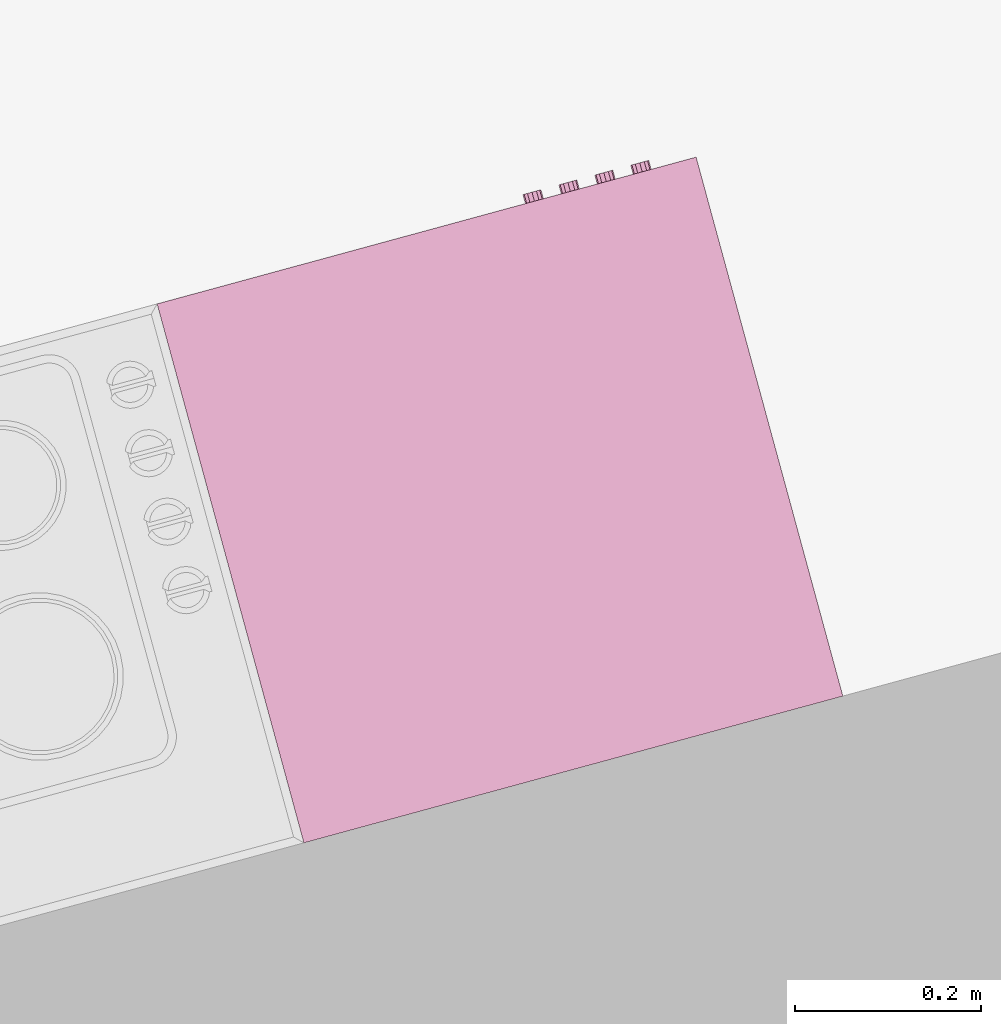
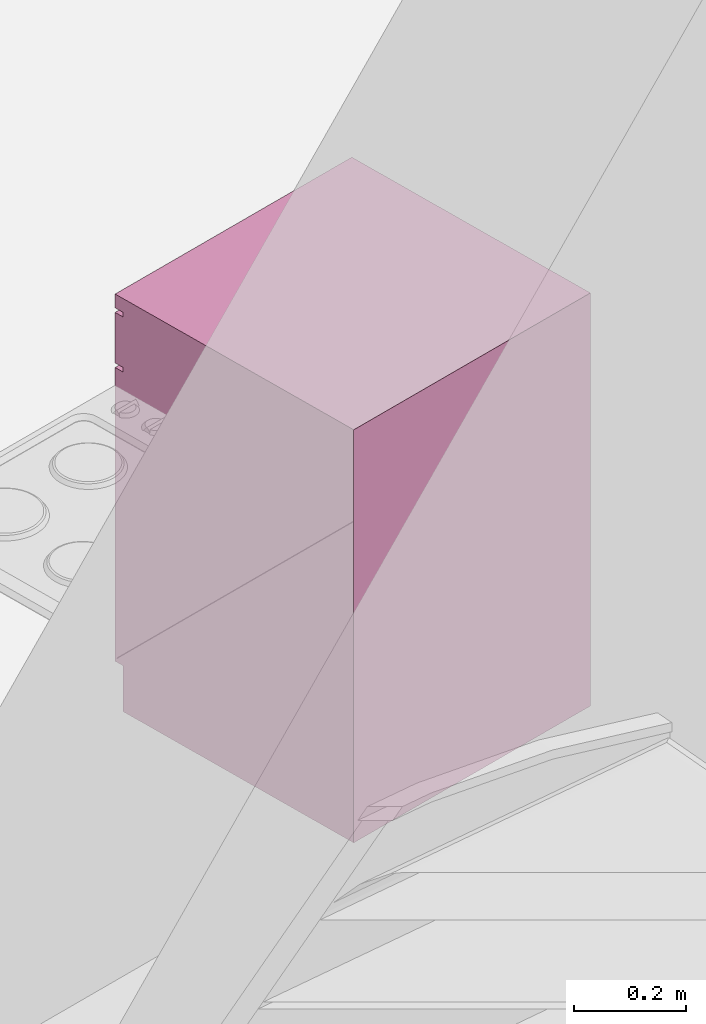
# One storey, part 166 of 195: 1 furnishing.
"""IFC2X3 building model written with IfcOpenShell, lengths in metres."""

from ifc_helpers import new_model, entity, si_unit, converted_unit, derived_unit, money_unit, direction, frame, origin_with_axes, place, context, subcontext, project, spatial, open_shell, faceted_brep, surface_model, source, transform, mapped, type_object, element, save


model = new_model("IFC2X3")

# Units and contexts
model_context = context("Model", 3, precision=1e-05, world=origin_with_axes(), true_north=direction((0.0, 1.0)))
body_context = subcontext(model_context, "Body", "Model", "MODEL_VIEW")
ifc_project = project(units=[si_unit("LENGTHUNIT", "METRE"), si_unit("AREAUNIT", "SQUARE_METRE"), si_unit("VOLUMEUNIT", "CUBIC_METRE"), converted_unit("PLANEANGLEUNIT", "DEGREE", entity("IfcPlaneAngleMeasure", 0.0174532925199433), si_unit("PLANEANGLEUNIT", "RADIAN"), dimensions=[0, 0, 0, 0, 0, 0, 0]), money_unit("CHF"), converted_unit("TIMEUNIT", "Year", entity("IfcTimeMeasure", 31557600.0), si_unit("TIMEUNIT", "SECOND"), dimensions=[0, 0, 1, 0, 0, 0, 0]), si_unit("MASSUNIT", "GRAM", prefix="KILO"), si_unit("THERMODYNAMICTEMPERATUREUNIT", "DEGREE_CELSIUS"), si_unit("LUMINOUSINTENSITYUNIT", "LUMEN"), si_unit("ENERGYUNIT", "JOULE", prefix="MEGA"), derived_unit("THERMALCONDUCTANCEUNIT", [(si_unit("POWERUNIT", "WATT"), 1), (si_unit("LENGTHUNIT", "METRE"), -1), (si_unit("THERMODYNAMICTEMPERATUREUNIT", "KELVIN"), -1)]), derived_unit("SPECIFICHEATCAPACITYUNIT", [(si_unit("ENERGYUNIT", "JOULE"), 1), (si_unit("MASSUNIT", "GRAM", prefix="KILO"), -1), (si_unit("THERMODYNAMICTEMPERATUREUNIT", "KELVIN"), -1)]), derived_unit("MASSDENSITYUNIT", [(si_unit("MASSUNIT", "GRAM", prefix="KILO"), 1), (si_unit("VOLUMEUNIT", "CUBIC_METRE"), -1)])], contexts=[model_context])

# Site, building, storey
site_placement = place(None, origin_with_axes())
site = spatial("IfcSite", under=ifc_project, at=site_placement, Name="Site", CompositionType="ELEMENT")
building_placement = place(site_placement, origin_with_axes())
building = spatial("IfcBuilding", under=site, at=building_placement, Name="Bâtiment", CompositionType="ELEMENT")
storey_placement = place(building_placement, origin_with_axes())
storey = spatial("IfcBuildingStorey", under=building, at=storey_placement, Name="rdc", CompositionType="ELEMENT", Elevation=0.0)

# Furnishing
furnishing_element_type = type_object("IfcFurnishingElementType", Name="Machine à laver")
shared_shape = source(origin_with_axes(), body_context, "Body", "SurfaceModel", [
    faceted_brep([(0.0, 0.02, 0.1), (0.6, 0.02, 0.1), (0.6, 0.0, 0.1), (0.0, 0.0, 0.1), (0.0, 0.02000000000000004, 0.74), (0.6, 0.02000000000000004, 0.74), (0.4714285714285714, 0.02000000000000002, 0.42), (0.4655872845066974, 0.02000000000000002, 0.4643689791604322), (0.448461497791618, 0.02000000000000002, 0.5057142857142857), (0.4212183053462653, 0.02000000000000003, 0.5412183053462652), (0.3857142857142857, 0.02000000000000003, 0.568461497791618), (0.3443689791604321, 0.02000000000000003, 0.5855872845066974), (0.3, 0.02000000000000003, 0.5914285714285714), (0.2556310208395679, 0.02000000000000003, 0.5855872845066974), (0.2142857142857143, 0.02000000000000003, 0.5684614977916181), (0.1787816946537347, 0.02000000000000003, 0.5412183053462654), (0.1515385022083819, 0.02000000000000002, 0.5057142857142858), (0.1344127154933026, 0.02000000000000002, 0.4643689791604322), (0.1285714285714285, 0.02000000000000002, 0.42), (0.1344127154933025, 0.02000000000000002, 0.3756310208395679), (0.1515385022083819, 0.02000000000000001, 0.3342857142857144), (0.1787816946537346, 0.02000000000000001, 0.2987816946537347), (0.2142857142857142, 0.02000000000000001, 0.2715385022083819), (0.2556310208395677, 0.02000000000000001, 0.2544127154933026), (0.2999999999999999, 0.02000000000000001, 0.2485714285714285), (0.344368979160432, 0.02000000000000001, 0.2544127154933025), (0.3857142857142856, 0.02000000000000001, 0.2715385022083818), (0.4212183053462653, 0.02000000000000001, 0.2987816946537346), (0.448461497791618, 0.02000000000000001, 0.3342857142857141), (0.4655872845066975, 0.02000000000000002, 0.3756310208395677), (0.6, 0.0, 0.74), (0.0, 0.0, 0.74), (0.4714285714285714, 0.0, 0.42), (0.4655872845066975, 0.0, 0.3756310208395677), (0.448461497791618, 0.0, 0.3342857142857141), (0.4212183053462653, 0.0, 0.2987816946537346), (0.3857142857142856, 0.0, 0.2715385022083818), (0.344368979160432, 0.0, 0.2544127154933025), (0.2999999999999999, 0.0, 0.2485714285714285), (0.2556310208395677, 0.0, 0.2544127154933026), (0.2142857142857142, 0.0, 0.2715385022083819), (0.1787816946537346, 0.0, 0.2987816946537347), (0.1515385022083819, 0.0, 0.3342857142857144), (0.1344127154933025, 0.0, 0.3756310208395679), (0.1285714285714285, 0.0, 0.42), (0.1344127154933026, 0.0, 0.4643689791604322), (0.1515385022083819, 0.0, 0.5057142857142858), (0.1787816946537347, 0.0, 0.5412183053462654), (0.2142857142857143, 0.0, 0.5684614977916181), (0.2556310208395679, 0.0, 0.5855872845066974), (0.3, 0.0, 0.5914285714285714), (0.3443689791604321, 0.0, 0.5855872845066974), (0.3857142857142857, 0.0, 0.568461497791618), (0.4212183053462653, 0.0, 0.5412183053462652), (0.448461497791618, 0.0, 0.5057142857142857), (0.4655872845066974, 0.0, 0.4643689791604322)], [[[0, 1, 2, 3]], [[0, 4, 5, 1], [6, 7, 8, 9, 10, 11, 12, 13, 14, 15, 16, 17, 18, 19, 20, 21, 22, 23, 24, 25, 26, 27, 28, 29]], [[1, 5, 30, 2]], [[3, 2, 30, 31], [32, 33, 34, 35, 36, 37, 38, 39, 40, 41, 42, 43, 44, 45, 46, 47, 48, 49, 50, 51, 52, 53, 54, 55]], [[4, 0, 3, 31]], [[5, 4, 31, 30]], [[7, 6, 32, 55]], [[8, 7, 55, 54]], [[9, 8, 54, 53]], [[10, 9, 53, 52]], [[11, 10, 52, 51]], [[12, 11, 51, 50]], [[13, 12, 50, 49]], [[14, 13, 49, 48]], [[15, 14, 48, 47]], [[16, 15, 47, 46]], [[17, 16, 46, 45]], [[18, 17, 45, 44]], [[19, 18, 44, 43]], [[20, 19, 43, 42]], [[21, 20, 42, 41]], [[22, 21, 41, 40]], [[23, 22, 40, 39]], [[24, 23, 39, 38]], [[25, 24, 38, 37]], [[26, 25, 37, 36]], [[27, 26, 36, 35]], [[28, 27, 35, 34]], [[29, 28, 34, 33]], [[6, 29, 33, 32]]]),
    faceted_brep([(0.4714285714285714, 0.04000000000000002, 0.42), (0.4655872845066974, 0.04000000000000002, 0.4643689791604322), (0.4655872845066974, 0.02000000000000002, 0.4643689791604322), (0.4714285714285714, 0.02000000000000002, 0.42), (0.4655872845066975, 0.04000000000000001, 0.3756310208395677), (0.448461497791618, 0.04000000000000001, 0.3342857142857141), (0.4212183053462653, 0.04000000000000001, 0.2987816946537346), (0.3857142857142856, 0.04000000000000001, 0.2715385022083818), (0.344368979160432, 0.04000000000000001, 0.2544127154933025), (0.2999999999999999, 0.04000000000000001, 0.2485714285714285), (0.2556310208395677, 0.04000000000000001, 0.2544127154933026), (0.2142857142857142, 0.04000000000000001, 0.2715385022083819), (0.1787816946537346, 0.04000000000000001, 0.2987816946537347), (0.1515385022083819, 0.04000000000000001, 0.3342857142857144), (0.1344127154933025, 0.04000000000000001, 0.3756310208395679), (0.1285714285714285, 0.04000000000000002, 0.42), (0.1344127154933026, 0.04000000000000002, 0.4643689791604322), (0.1515385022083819, 0.04000000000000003, 0.5057142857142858), (0.1787816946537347, 0.04000000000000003, 0.5412183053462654), (0.2142857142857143, 0.04000000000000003, 0.5684614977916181), (0.2556310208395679, 0.04000000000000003, 0.5855872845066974), (0.3, 0.04000000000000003, 0.5914285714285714), (0.3443689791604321, 0.04000000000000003, 0.5855872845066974), (0.3857142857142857, 0.04000000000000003, 0.568461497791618), (0.4212183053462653, 0.04000000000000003, 0.5412183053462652), (0.448461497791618, 0.04000000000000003, 0.5057142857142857), (0.4371428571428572, 0.04000000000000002, 0.42), (0.432469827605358, 0.04000000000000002, 0.4554951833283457), (0.4187691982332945, 0.04000000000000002, 0.4885714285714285), (0.3969746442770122, 0.04000000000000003, 0.5169746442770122), (0.3685714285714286, 0.04000000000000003, 0.5387691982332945), (0.3354951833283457, 0.04000000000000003, 0.552469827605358), (0.3, 0.04000000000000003, 0.5571428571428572), (0.2645048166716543, 0.04000000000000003, 0.552469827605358), (0.2314285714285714, 0.04000000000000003, 0.5387691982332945), (0.2030253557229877, 0.04000000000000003, 0.5169746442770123), (0.1812308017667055, 0.04000000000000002, 0.4885714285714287), (0.167530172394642, 0.04000000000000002, 0.4554951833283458), (0.1628571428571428, 0.04000000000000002, 0.42), (0.167530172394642, 0.04000000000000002, 0.3845048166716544), (0.1812308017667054, 0.04000000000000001, 0.3514285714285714), (0.2030253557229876, 0.04000000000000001, 0.3230253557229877), (0.2314285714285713, 0.04000000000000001, 0.3012308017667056), (0.2645048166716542, 0.04000000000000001, 0.287530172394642), (0.2999999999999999, 0.04000000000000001, 0.2828571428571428), (0.3354951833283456, 0.04000000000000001, 0.287530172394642), (0.3685714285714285, 0.04000000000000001, 0.3012308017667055), (0.3969746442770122, 0.04000000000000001, 0.3230253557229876), (0.4187691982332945, 0.04000000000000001, 0.3514285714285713), (0.432469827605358, 0.04000000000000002, 0.3845048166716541), (0.448461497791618, 0.02000000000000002, 0.5057142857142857), (0.4212183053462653, 0.02000000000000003, 0.5412183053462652), (0.3857142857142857, 0.02000000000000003, 0.568461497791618), (0.3443689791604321, 0.02000000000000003, 0.5855872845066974), (0.3, 0.02000000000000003, 0.5914285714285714), (0.2556310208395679, 0.02000000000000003, 0.5855872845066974), (0.2142857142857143, 0.02000000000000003, 0.5684614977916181), (0.1787816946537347, 0.02000000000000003, 0.5412183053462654), (0.1515385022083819, 0.02000000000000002, 0.5057142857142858), (0.1344127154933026, 0.02000000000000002, 0.4643689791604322), (0.1285714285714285, 0.02000000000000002, 0.42), (0.1344127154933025, 0.02000000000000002, 0.3756310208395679), (0.1515385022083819, 0.02000000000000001, 0.3342857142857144), (0.1787816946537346, 0.02000000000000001, 0.2987816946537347), (0.2142857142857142, 0.02000000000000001, 0.2715385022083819), (0.2556310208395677, 0.02000000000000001, 0.2544127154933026), (0.2999999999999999, 0.02000000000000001, 0.2485714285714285), (0.344368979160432, 0.02000000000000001, 0.2544127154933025), (0.3857142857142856, 0.02000000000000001, 0.2715385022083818), (0.4212183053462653, 0.02000000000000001, 0.2987816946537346), (0.448461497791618, 0.02000000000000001, 0.3342857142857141), (0.4655872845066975, 0.02000000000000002, 0.3756310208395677), (0.4371428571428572, 0.02000000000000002, 0.42), (0.432469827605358, 0.02000000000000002, 0.3845048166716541), (0.4187691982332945, 0.02000000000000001, 0.3514285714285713), (0.3969746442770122, 0.02000000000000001, 0.3230253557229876), (0.3685714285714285, 0.02000000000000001, 0.3012308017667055), (0.3354951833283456, 0.02000000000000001, 0.287530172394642), (0.2999999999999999, 0.02000000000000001, 0.2828571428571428), (0.2645048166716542, 0.02000000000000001, 0.287530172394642), (0.2314285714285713, 0.02000000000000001, 0.3012308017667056), (0.2030253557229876, 0.02000000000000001, 0.3230253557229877), (0.1812308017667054, 0.02000000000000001, 0.3514285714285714), (0.167530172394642, 0.02000000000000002, 0.3845048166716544), (0.1628571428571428, 0.02000000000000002, 0.42), (0.167530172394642, 0.02000000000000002, 0.4554951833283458), (0.1812308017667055, 0.02000000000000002, 0.4885714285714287), (0.2030253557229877, 0.02000000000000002, 0.5169746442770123), (0.2314285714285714, 0.02000000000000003, 0.5387691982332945), (0.2645048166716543, 0.02000000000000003, 0.552469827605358), (0.3, 0.02000000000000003, 0.5571428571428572), (0.3354951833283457, 0.02000000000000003, 0.552469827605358), (0.3685714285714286, 0.02000000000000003, 0.5387691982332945), (0.3969746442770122, 0.02000000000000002, 0.5169746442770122), (0.4187691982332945, 0.02000000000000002, 0.4885714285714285), (0.432469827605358, 0.02000000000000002, 0.4554951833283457)], [[[0, 1, 2, 3]], [[0, 4, 5, 6, 7, 8, 9, 10, 11, 12, 13, 14, 15, 16, 17, 18, 19, 20, 21, 22, 23, 24, 25, 1], [26, 27, 28, 29, 30, 31, 32, 33, 34, 35, 36, 37, 38, 39, 40, 41, 42, 43, 44, 45, 46, 47, 48, 49]], [[1, 25, 50, 2]], [[3, 2, 50, 51, 52, 53, 54, 55, 56, 57, 58, 59, 60, 61, 62, 63, 64, 65, 66, 67, 68, 69, 70, 71], [72, 73, 74, 75, 76, 77, 78, 79, 80, 81, 82, 83, 84, 85, 86, 87, 88, 89, 90, 91, 92, 93, 94, 95]], [[4, 0, 3, 71]], [[5, 4, 71, 70]], [[6, 5, 70, 69]], [[7, 6, 69, 68]], [[8, 7, 68, 67]], [[9, 8, 67, 66]], [[10, 9, 66, 65]], [[11, 10, 65, 64]], [[12, 11, 64, 63]], [[13, 12, 63, 62]], [[14, 13, 62, 61]], [[15, 14, 61, 60]], [[16, 15, 60, 59]], [[17, 16, 59, 58]], [[18, 17, 58, 57]], [[19, 18, 57, 56]], [[20, 19, 56, 55]], [[21, 20, 55, 54]], [[22, 21, 54, 53]], [[23, 22, 53, 52]], [[24, 23, 52, 51]], [[25, 24, 51, 50]], [[27, 26, 72, 95]], [[28, 27, 95, 94]], [[29, 28, 94, 93]], [[30, 29, 93, 92]], [[31, 30, 92, 91]], [[32, 31, 91, 90]], [[33, 32, 90, 89]], [[34, 33, 89, 88]], [[35, 34, 88, 87]], [[36, 35, 87, 86]], [[37, 36, 86, 85]], [[38, 37, 85, 84]], [[39, 38, 84, 83]], [[40, 39, 83, 82]], [[41, 40, 82, 81]], [[42, 41, 81, 80]], [[43, 42, 80, 79]], [[44, 43, 79, 78]], [[45, 44, 78, 77]], [[46, 45, 77, 76]], [[47, 46, 76, 75]], [[48, 47, 75, 74]], [[49, 48, 74, 73]], [[26, 49, 73, 72]]]),
    surface_model("IfcShellBasedSurfaceModel", [(0.2645048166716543, 0.03999999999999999, 0.552469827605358), (0.3, 0.03999999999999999, 0.5571428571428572), (0.3, 0.14, 0.5228571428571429), (0.2733786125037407, 0.14, 0.5193523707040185), (0.3354951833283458, 0.03999999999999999, 0.552469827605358), (0.3266213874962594, 0.14, 0.5193523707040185), (0.3514285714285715, 0.14, 0.5090768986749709), (0.3727309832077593, 0.14, 0.4927309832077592), (0.3890768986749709, 0.14, 0.4714285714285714), (0.3993523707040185, 0.14, 0.4466213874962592), (0.4028571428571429, 0.14, 0.42), (0.3993523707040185, 0.14, 0.3933786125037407), (0.3890768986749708, 0.14, 0.3685714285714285), (0.3727309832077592, 0.14, 0.3472690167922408), (0.3514285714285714, 0.14, 0.3309231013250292), (0.3266213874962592, 0.14, 0.3206476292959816), (0.2999999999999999, 0.14, 0.3171428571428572), (0.2733786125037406, 0.14, 0.3206476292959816), (0.2485714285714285, 0.14, 0.3309231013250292), (0.2272690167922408, 0.14, 0.3472690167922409), (0.2109231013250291, 0.14, 0.3685714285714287), (0.2006476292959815, 0.14, 0.3933786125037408), (0.1971428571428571, 0.14, 0.4200000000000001), (0.2006476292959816, 0.14, 0.4466213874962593), (0.2109231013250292, 0.14, 0.4714285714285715), (0.2272690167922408, 0.14, 0.4927309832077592), (0.2485714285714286, 0.14, 0.5090768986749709), (0.2314285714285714, 0.03999999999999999, 0.5387691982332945), (0.3685714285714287, 0.03999999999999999, 0.5387691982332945), (0.3969746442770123, 0.03999999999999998, 0.5169746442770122), (0.4187691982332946, 0.03999999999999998, 0.4885714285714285), (0.432469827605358, 0.03999999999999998, 0.4554951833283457), (0.4371428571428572, 0.03999999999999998, 0.4199999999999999), (0.432469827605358, 0.03999999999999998, 0.3845048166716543), (0.4187691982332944, 0.03999999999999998, 0.3514285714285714), (0.3969746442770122, 0.03999999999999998, 0.3230253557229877), (0.3685714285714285, 0.03999999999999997, 0.3012308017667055), (0.3354951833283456, 0.03999999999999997, 0.2875301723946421), (0.2999999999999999, 0.03999999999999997, 0.2828571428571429), (0.2645048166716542, 0.03999999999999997, 0.2875301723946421), (0.2314285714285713, 0.03999999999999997, 0.3012308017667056), (0.2030253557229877, 0.03999999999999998, 0.3230253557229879), (0.1812308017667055, 0.03999999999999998, 0.3514285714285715), (0.167530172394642, 0.03999999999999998, 0.3845048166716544), (0.1628571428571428, 0.03999999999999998, 0.4200000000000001), (0.167530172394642, 0.03999999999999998, 0.4554951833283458), (0.1812308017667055, 0.03999999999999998, 0.4885714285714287), (0.2030253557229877, 0.03999999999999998, 0.5169746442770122)], [open_shell([[[0, 1, 2, 3]], [[1, 4, 5, 2]], [[2, 5, 6, 7, 8, 9, 10, 11, 12, 13, 14, 15, 16, 17, 18, 19, 20, 21, 22, 23, 24, 25, 26, 3]], [[27, 0, 3, 26]], [[4, 28, 6, 5]], [[28, 29, 7, 6]], [[29, 30, 8, 7]], [[30, 31, 9, 8]], [[31, 32, 10, 9]], [[32, 33, 11, 10]], [[33, 34, 12, 11]], [[34, 35, 13, 12]], [[35, 36, 14, 13]], [[36, 37, 15, 14]], [[37, 38, 16, 15]], [[38, 39, 17, 16]], [[39, 40, 18, 17]], [[40, 41, 19, 18]], [[41, 42, 20, 19]], [[42, 43, 21, 20]], [[43, 44, 22, 21]], [[44, 45, 23, 22]], [[45, 46, 24, 23]], [[46, 47, 25, 24]], [[47, 27, 26, 25]]])]),
    surface_model("IfcShellBasedSurfaceModel", [(0.0, 0.02, 0.1), (0.0, 0.02000000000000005, 0.87), (0.0, 0.6, 0.87), (0.0, 0.6, 0.09999999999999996)], [open_shell([[[0, 1, 2, 3]]])]),
    surface_model("IfcShellBasedSurfaceModel", [(0.6, 0.01999999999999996, 0.1), (0.6, 0.02000000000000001, 0.87), (0.6, 0.5999999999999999, 0.87), (0.6, 0.5999999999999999, 0.09999999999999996)], [open_shell([[[0, 1, 2, 3]]])]),
    surface_model("IfcShellBasedSurfaceModel", [(0.0, 0.6, 0.1), (0.0, 0.6, 0.87), (0.6, 0.6, 0.87), (0.6, 0.6, 0.1)], [open_shell([[[0, 1, 2, 3]]])]),
    faceted_brep([(0.0, 0.02, 0.0), (0.6, 0.02, 0.0), (0.6, 0.02, 0.1), (0.0, 0.02, 0.1), (0.0, 0.6, 0.0), (0.6, 0.6, 0.0), (0.6, 0.6, 0.1), (0.0, 0.6, 0.1)], [[[0, 1, 2, 3]], [[0, 4, 5, 1]], [[1, 5, 6, 2]], [[3, 2, 6, 7]], [[4, 0, 3, 7]], [[5, 4, 7, 6]]]),
    faceted_brep([(0.0, 0.02, 0.75), (0.6, 0.02, 0.75), (0.6, 0.0, 0.75), (0.0, 0.0, 0.75), (0.0, 0.02000000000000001, 0.86), (0.6, 0.02000000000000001, 0.86), (0.6, 0.0, 0.86), (0.0, 0.0, 0.86)], [[[0, 1, 2, 3]], [[0, 4, 5, 1]], [[1, 5, 6, 2]], [[3, 2, 6, 7]], [[4, 0, 3, 7]], [[5, 4, 7, 6]]]),
    surface_model("IfcShellBasedSurfaceModel", [(0.0, 0.02, 0.74), (0.0, 0.02000000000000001, 0.87), (0.6, 0.02000000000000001, 0.87), (0.6, 0.02, 0.74)], [open_shell([[[0, 1, 2, 3]]])]),
    faceted_brep([(0.0, 0.0, 0.87), (0.6, 0.0, 0.87), (0.6, 0.0, 0.9), (0.0, 0.0, 0.9), (0.0, 0.6, 0.87), (0.6, 0.6, 0.87), (0.6, 0.6, 0.9), (0.0, 0.6, 0.9)], [[[0, 1, 2, 3]], [[0, 4, 5, 1]], [[1, 5, 6, 2]], [[3, 2, 6, 7]], [[4, 0, 3, 7]], [[5, 4, 7, 6]]]),
    faceted_brep([(0.06866025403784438, 0.0, 0.8049999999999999), (0.06499999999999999, 0.0, 0.8013397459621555), (0.05999999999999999, 0.0, 0.7999999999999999), (0.05499999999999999, 0.0, 0.8013397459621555), (0.05133974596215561, 0.0, 0.8049999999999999), (0.05, 0.0, 0.8099999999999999), (0.05133974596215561, 0.0, 0.815), (0.055, 0.0, 0.8186602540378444), (0.06, 0.0, 0.82), (0.065, 0.0, 0.8186602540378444), (0.06866025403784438, 0.0, 0.815), (0.06999999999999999, 0.0, 0.8099999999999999), (0.06866025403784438, -0.01, 0.8049999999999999), (0.06499999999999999, -0.01, 0.8013397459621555), (0.05999999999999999, -0.01, 0.7999999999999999), (0.05499999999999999, -0.01, 0.8013397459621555), (0.05133974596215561, -0.01, 0.8049999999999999), (0.05, -0.01, 0.8099999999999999), (0.05133974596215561, -0.01, 0.815), (0.055, -0.01, 0.8186602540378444), (0.06, -0.01, 0.82), (0.065, -0.01, 0.8186602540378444), (0.06866025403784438, -0.01, 0.815), (0.06999999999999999, -0.01, 0.8099999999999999)], [[[0, 1, 2, 3, 4, 5, 6, 7, 8, 9, 10, 11]], [[1, 0, 12, 13]], [[2, 1, 13, 14]], [[3, 2, 14, 15]], [[4, 3, 15, 16]], [[5, 4, 16, 17]], [[6, 5, 17, 18]], [[7, 6, 18, 19]], [[8, 7, 19, 20]], [[9, 8, 20, 21]], [[10, 9, 21, 22]], [[11, 10, 22, 23]], [[0, 11, 23, 12]], [[12, 23, 22, 21, 20, 19, 18, 17, 16, 15, 14, 13]]]),
    faceted_brep([(0.1086602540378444, 0.0, 0.8049999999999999), (0.105, 0.0, 0.8013397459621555), (0.09999999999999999, 0.0, 0.7999999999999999), (0.095, 0.0, 0.8013397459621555), (0.09133974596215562, 0.0, 0.8049999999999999), (0.09000000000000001, 0.0, 0.8099999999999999), (0.09133974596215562, 0.0, 0.815), (0.095, 0.0, 0.8186602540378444), (0.1, 0.0, 0.82), (0.105, 0.0, 0.8186602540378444), (0.1086602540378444, 0.0, 0.815), (0.11, 0.0, 0.8099999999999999), (0.1086602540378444, -0.01, 0.8049999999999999), (0.105, -0.01, 0.8013397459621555), (0.09999999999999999, -0.01, 0.7999999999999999), (0.095, -0.01, 0.8013397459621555), (0.09133974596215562, -0.01, 0.8049999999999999), (0.09000000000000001, -0.01, 0.8099999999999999), (0.09133974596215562, -0.01, 0.815), (0.095, -0.01, 0.8186602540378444), (0.1, -0.01, 0.82), (0.105, -0.01, 0.8186602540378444), (0.1086602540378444, -0.01, 0.815), (0.11, -0.01, 0.8099999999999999)], [[[0, 1, 2, 3, 4, 5, 6, 7, 8, 9, 10, 11]], [[1, 0, 12, 13]], [[2, 1, 13, 14]], [[3, 2, 14, 15]], [[4, 3, 15, 16]], [[5, 4, 16, 17]], [[6, 5, 17, 18]], [[7, 6, 18, 19]], [[8, 7, 19, 20]], [[9, 8, 20, 21]], [[10, 9, 21, 22]], [[11, 10, 22, 23]], [[0, 11, 23, 12]], [[12, 23, 22, 21, 20, 19, 18, 17, 16, 15, 14, 13]]]),
    faceted_brep([(0.1486602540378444, 0.0, 0.8049999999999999), (0.145, 0.0, 0.8013397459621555), (0.14, 0.0, 0.7999999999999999), (0.135, 0.0, 0.8013397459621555), (0.1313397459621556, 0.0, 0.8049999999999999), (0.13, 0.0, 0.8099999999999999), (0.1313397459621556, 0.0, 0.815), (0.135, 0.0, 0.8186602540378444), (0.14, 0.0, 0.82), (0.145, 0.0, 0.8186602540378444), (0.1486602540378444, 0.0, 0.815), (0.15, 0.0, 0.8099999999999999), (0.1486602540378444, -0.01, 0.8049999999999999), (0.145, -0.01, 0.8013397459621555), (0.14, -0.01, 0.7999999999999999), (0.135, -0.01, 0.8013397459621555), (0.1313397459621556, -0.01, 0.8049999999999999), (0.13, -0.01, 0.8099999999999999), (0.1313397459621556, -0.01, 0.815), (0.135, -0.01, 0.8186602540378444), (0.14, -0.01, 0.82), (0.145, -0.01, 0.8186602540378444), (0.1486602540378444, -0.01, 0.815), (0.15, -0.01, 0.8099999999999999)], [[[0, 1, 2, 3, 4, 5, 6, 7, 8, 9, 10, 11]], [[1, 0, 12, 13]], [[2, 1, 13, 14]], [[3, 2, 14, 15]], [[4, 3, 15, 16]], [[5, 4, 16, 17]], [[6, 5, 17, 18]], [[7, 6, 18, 19]], [[8, 7, 19, 20]], [[9, 8, 20, 21]], [[10, 9, 21, 22]], [[11, 10, 22, 23]], [[0, 11, 23, 12]], [[12, 23, 22, 21, 20, 19, 18, 17, 16, 15, 14, 13]]]),
    faceted_brep([(0.1886602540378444, 0.0, 0.8049999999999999), (0.185, 0.0, 0.8013397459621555), (0.18, 0.0, 0.7999999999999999), (0.175, 0.0, 0.8013397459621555), (0.1713397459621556, 0.0, 0.8049999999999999), (0.17, 0.0, 0.8099999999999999), (0.1713397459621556, 0.0, 0.815), (0.175, 0.0, 0.8186602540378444), (0.18, 0.0, 0.82), (0.185, 0.0, 0.8186602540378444), (0.1886602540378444, 0.0, 0.815), (0.19, 0.0, 0.8099999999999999), (0.1886602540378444, -0.01, 0.8049999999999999), (0.185, -0.01, 0.8013397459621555), (0.18, -0.01, 0.7999999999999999), (0.175, -0.01, 0.8013397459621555), (0.1713397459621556, -0.01, 0.8049999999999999), (0.17, -0.01, 0.8099999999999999), (0.1713397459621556, -0.01, 0.815), (0.175, -0.01, 0.8186602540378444), (0.18, -0.01, 0.82), (0.185, -0.01, 0.8186602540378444), (0.1886602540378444, -0.01, 0.815), (0.19, -0.01, 0.8099999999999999)], [[[0, 1, 2, 3, 4, 5, 6, 7, 8, 9, 10, 11]], [[1, 0, 12, 13]], [[2, 1, 13, 14]], [[3, 2, 14, 15]], [[4, 3, 15, 16]], [[5, 4, 16, 17]], [[6, 5, 17, 18]], [[7, 6, 18, 19]], [[8, 7, 19, 20]], [[9, 8, 20, 21]], [[10, 9, 21, 22]], [[11, 10, 22, 23]], [[0, 11, 23, 12]], [[12, 23, 22, 21, 20, 19, 18, 17, 16, 15, 14, 13]]]),
])
furnishing_placement = place(storey_placement, frame((9582.669134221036, -1021.254555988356, 57.7), z_axis=(0.0, 0.0, 1.0), x_axis=(-0.9648682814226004, -0.2627340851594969, 0.0)))
element("IfcFurnishingElement", 1, at=furnishing_placement, inside=storey, type_object=furnishing_element_type, Name="Obj.-019", context=body_context, shape_type="MappedRepresentation", body=[
    mapped(shared_shape, transform((0.0, 0.0, 0.0))),
])

save(model, "model.ifc")
